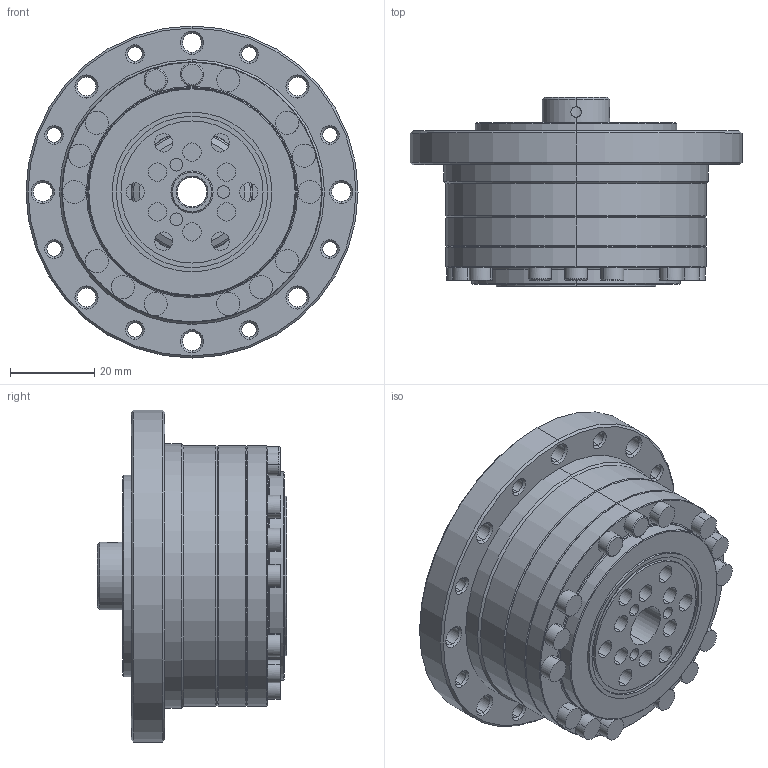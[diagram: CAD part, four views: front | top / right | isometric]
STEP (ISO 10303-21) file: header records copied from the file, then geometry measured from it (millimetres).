
FILE_DESCRIPTION((''),'2;1');
FILE_NAME('LSS-17-U-I_ASM','2019-02-20T',('Administrator'),(''),'PRO/ENGINEER BY PARAMETRIC TECHNOLOGY CORPORATION, 2014200','PRO/ENGINEER BY PARAMETRIC TECHNOLOGY CORPORATION, 2014200','');
FILE_SCHEMA(('AUTOMOTIVE_DESIGN { 1 0 10303 214 1 1 1 1 }'));
Length unit declared in the file: millimetre
Products named in the file (15): MANIFOLD_SOLID_BREP_112_1; MANIFOLD_SOLID_BREP_113_1; MANIFOLD_SOLID_BREP_114_1; MANIFOLD_SOLID_BREP_115_1; MANIFOLD_SOLID_BREP_116_1; MANIFOLD_SOLID_BREP_117_1; MANIFOLD_SOLID_BREP_118_1; MANIFOLD_SOLID_BREP_119_1; MANIFOLD_SOLID_BREP_120_1; MANIFOLD_SOLID_BREP_121_1; MANIFOLD_SOLID_BREP_122_1; ADMI7ED1CHEC_ASM_1_ASM; LSS-17_ASM_1_ASM; 17; LSS-17-U-I_ASM
Assembly tree (14 placements, depth 4):
  LSS-17-U-I_ASM
    LSS-17_ASM_1_ASM
      ADMI7ED1CHEC_ASM_1_ASM
        MANIFOLD_SOLID_BREP_112_1
        MANIFOLD_SOLID_BREP_113_1
        MANIFOLD_SOLID_BREP_114_1
        MANIFOLD_SOLID_BREP_115_1
        MANIFOLD_SOLID_BREP_116_1
        MANIFOLD_SOLID_BREP_117_1
        MANIFOLD_SOLID_BREP_118_1
        MANIFOLD_SOLID_BREP_119_1
        MANIFOLD_SOLID_BREP_120_1
        MANIFOLD_SOLID_BREP_121_1
        MANIFOLD_SOLID_BREP_122_1
    17
Bounding box: 79 x 45 x 79 mm (x, y, z)
Volume: 102606.3 mm3; surface area: 50101.3 mm2
Topology: 12 solids, 12 shells, 580 faces, 1388 edges, 881 vertices
Faces by surface type: cylinder 289, cone 158, plane 89, torus 44
Entity records: 22466 total; most frequent: DIRECTION 3497, CARTESIAN_POINT 3019, ORIENTED_EDGE 2728, AXIS2_PLACEMENT_3D 1520, PRESENTATION_STYLE_ASSIGNMENT 1376, STYLED_ITEM 1376, CURVE_STYLE 1364, EDGE_CURVE 1364
